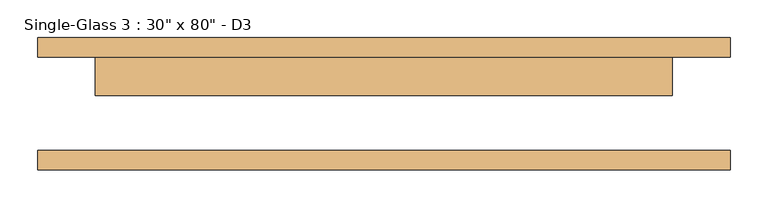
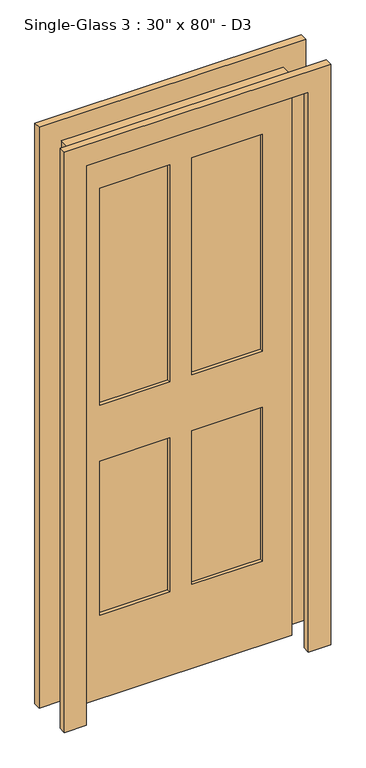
"""IFC4 building model written with IfcOpenShell, lengths in millimetres: door geometry."""

from ifc_helpers import new_model, si_unit, frame, origin, place, context, project, spatial, polyline, outline, extrude, source, transform, mapped, element, save


def door_dc1c1a0d(model_context):
    return source(origin(), model_context, "Body", "SweptSolid", [
        extrude(outline(polyline([(2108.2, -457.2), (0.0, -457.2), (0.0, -381.1240165), (2033.3906173, -381.1240165), (2033.3906173, 380.8759835), (0.0, 380.8759835), (0.0, 457.2), (2108.2, 457.2), (2108.2, -457.2)])), frame((0.0, 61.9125, 0.0), z_axis=(0.0, 1.0, 0.0), x_axis=(0.0, 0.0, 1.0)), (0.0, 0.0, 1.0), 25.4),
        extrude(outline(polyline([(2108.2, 457.2), (2108.2, -457.2), (1.3906173, -457.2), (1.3906173, -381.1240165), (2032.0, -381.1240165), (2032.0, 381.0), (0.0, 381.0), (0.0, 457.2), (2108.2, 457.2)])), frame((0.0, -87.3125, 0.0), z_axis=(0.0, 1.0, 0.0), x_axis=(0.0, 0.0, 1.0)), (0.0, 0.0, 1.0), 25.4),
        extrude(outline(polyline([(-37.9166629, 23.8125), (-279.4, 23.8125), (-279.4, 49.2125), (-37.9166629, 49.2125), (-37.9166629, 23.8125)])), frame((0.0, 0.0, 1066.8), z_axis=(0.0, 0.0, 1.0), x_axis=(1.0, 0.0, 0.0)), (0.0, 0.0, 1.0), 787.6046757),
        extrude(outline(polyline([(279.4, 23.8125), (37.4271634, 23.8125), (37.4271634, 49.2125), (279.4, 49.2125), (279.4, 23.8125)])), frame((0.0, 0.0, 1066.8), z_axis=(0.0, 0.0, 1.0), x_axis=(1.0, 0.0, 0.0)), (0.0, 0.0, 1.0), 787.6046757),
        extrude(outline(polyline([(-37.9166629, 23.8125), (-279.4, 23.8125), (-279.4, 49.2125), (-37.9166629, 49.2125), (-37.9166629, 23.8125)])), frame((0.0, 0.0, 305.0046757), z_axis=(0.0, 0.0, 1.0), x_axis=(1.0, 0.0, 0.0)), (0.0, 0.0, 1.0), 558.8),
        extrude(outline(polyline([(279.4, 23.8125), (37.4271634, 23.8125), (37.4271634, 49.2125), (279.4, 49.2125), (279.4, 23.8125)])), frame((0.0, 0.0, 305.0046757), z_axis=(0.0, 0.0, 1.0), x_axis=(1.0, 0.0, 0.0)), (0.0, 0.0, 1.0), 558.5953243),
        extrude(outline(polyline([(2033.3906173, 380.8759835), (2033.3906173, -381.1240165), (1.3906173, -381.1240165), (1.3906173, 380.8759835), (2033.3906173, 380.8759835)]), holes=[polyline([(1855.795293, -38.2240165), (1068.1906173, -38.2240165), (1068.1906173, -278.8511799), (1855.795293, -278.8511799), (1855.795293, -38.2240165)]), polyline([(1855.795293, 279.9488201), (1068.1906173, 279.9488201), (1068.1906173, 37.9759835), (1855.795293, 37.9759835), (1855.795293, 279.9488201)]), polyline([(865.195293, -38.2240165), (306.395293, -38.2240165), (306.395293, -278.8511799), (865.195293, -278.8511799), (865.195293, -38.2240165)]), polyline([(864.9906173, 279.9488201), (306.395293, 279.9488201), (306.395293, 37.9759835), (864.9906173, 37.9759835), (864.9906173, 279.9488201)])]), frame((0.0, 11.1125, 0.0), z_axis=(0.0, 1.0, 0.0), x_axis=(0.0, 0.0, 1.0)), (0.0, 0.0, 1.0), 50.8),
    ])


if __name__ == "__main__":
    model = new_model("IFC4")
    model_context = context("Model", 3, world=origin())
    ifc_project = project(units=[si_unit("LENGTHUNIT", "METRE", prefix="MILLI")], contexts=[model_context])
    site = spatial("IfcSite", under=ifc_project)
    building = spatial("IfcBuilding", under=site)
    placement = place(None, origin())
    door_shape = door_dc1c1a0d(model_context)
    element("IfcDoor", 1, ObjectType="Single-Glass 3 : 30\" x 80\" - D3", at=placement, inside=building, context=model_context, shape_type="MappedRepresentation", body=[
        mapped(door_shape, transform((0.0, 0.0, 0.0), x_axis=(1.0, 0.0, 0.0), y_axis=(0.0, 1.0, 0.0), z_axis=(0.0, 0.0, 1.0))),
    ])
    save(model, "model.ifc")
